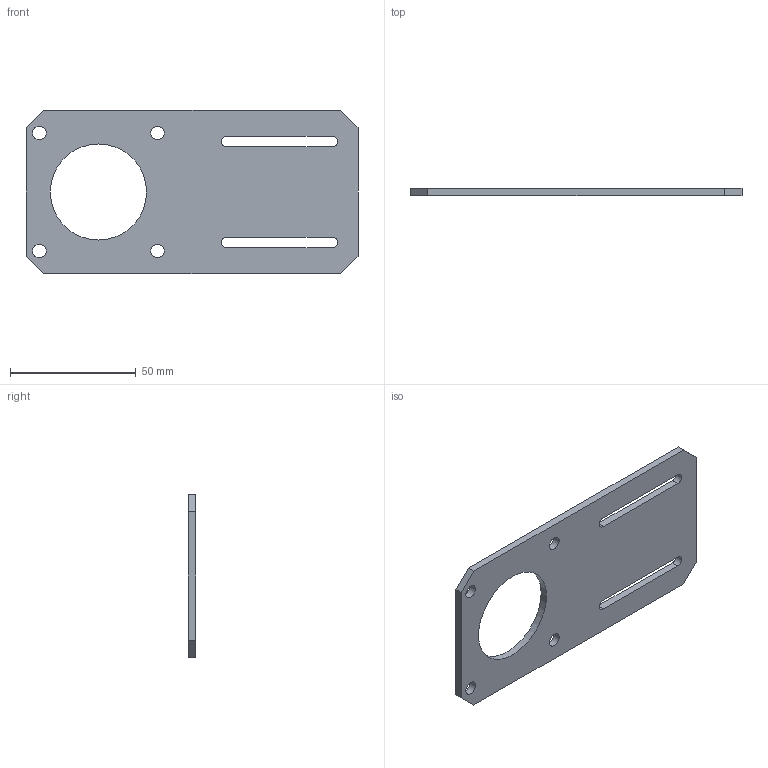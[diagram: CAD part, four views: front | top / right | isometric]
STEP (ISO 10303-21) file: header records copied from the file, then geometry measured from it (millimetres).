
FILE_DESCRIPTION(/* description */ (''),/* implementation_level */ '2;1');
FILE_NAME(/* name */ 'C:\Users\Lukas\Documents\Inventor\Rocketronics Teile\NEMA 23 gerade.stp',/* time_stamp */ '2026-03-17T17:08:14+01:00',/* author */ ('Lukas'),/* organization */ (''),/* preprocessor_version */ 'ST-DEVELOPER v19',/* originating_system */ 'Autodesk Inventor 2023',/* authorisation */ '');
FILE_SCHEMA (('AUTOMOTIVE_DESIGN { 1 0 10303 214 3 1 1 }'));
Length unit declared in the file: millimetre
Products named in the file (1): NEMA 23 gerade
Bounding box: 132 x 3 x 65.2 mm (x, y, z)
Volume: 20644 mm3; surface area: 16044.1 mm2
Topology: 1 solids, 1 shells, 23 faces, 63 edges, 42 vertices
Faces by surface type: plane 14, cylinder 9
Full cylindrical faces by diameter (mm): 5.4 x4, 38.2 x1
Entity records: 806 total; most frequent: DIRECTION 129, CARTESIAN_POINT 129, ORIENTED_EDGE 126, EDGE_CURVE 63, LINE 45, VECTOR 45, VERTEX_POINT 42, AXIS2_PLACEMENT_3D 42
